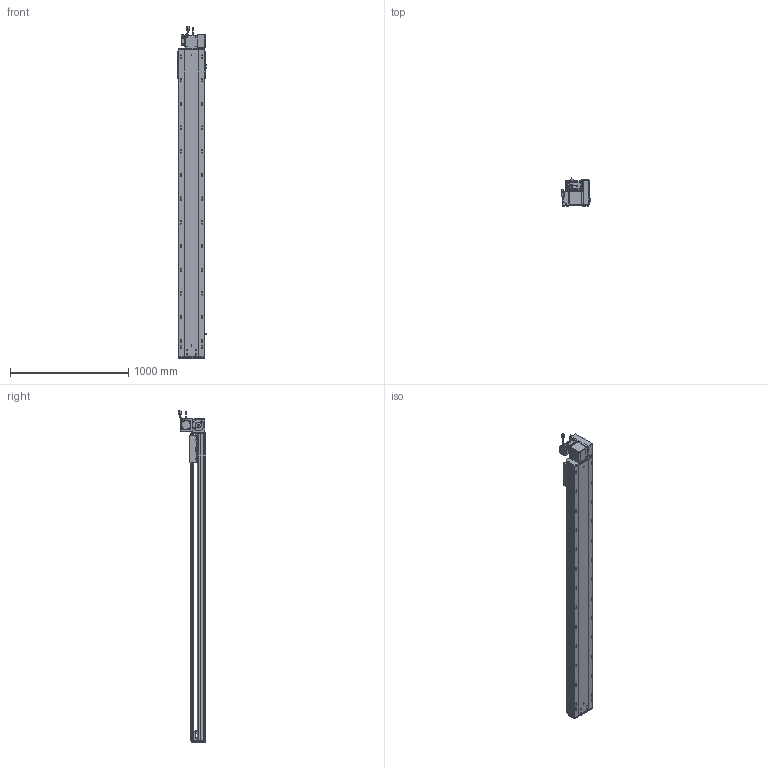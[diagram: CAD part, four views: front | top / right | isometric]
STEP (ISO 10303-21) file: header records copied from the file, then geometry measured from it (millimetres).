
FILE_DESCRIPTION (( 'STEP AP203' ), '1' );
FILE_NAME ('RY220-T-300-UR.SLDASM_2250.step', '2022-07-25T08:45:04', ( '' ), ( '' ), 'SwSTEP 2.0', 'SolidWorks 2016', '' );
FILE_SCHEMA (( 'CONFIG_CONTROL_DESIGN' ));
Length unit declared in the file: millimetre
Products named in the file (14): RY220-T菁釱-300_2250; RY220圉猾敕々湍臏賑輸; RY220翋肮祭謫裔啣; RY220-俋离672覜茼んえ; RY220-T-300-奻裔啣_2250; RY220-T-300-UR.SLDASM_2250; RY220-T-蛌殏萇儂假蚾啣(750W); RY220-T-湍謫欶(鍼踢); 110A-T-肮祭謫釱傷裔; RY220翋肮祭謫釱; RY220-同步轮副支撑座6304×2; 怢湛750W_ECMA-CX0807ES; 覜茼ん672; 滅袉蝶18-15
Assembly tree (18 placements, depth 2):
  RY220-T-300-UR.SLDASM_2250
    RY220-T菁釱-300_2250
    RY220翋肮祭謫釱
    覜茼ん672  x3
    RY220圉猾敕々湍臏賑輸
    RY220-T-300-奻裔啣_2250
    RY220-俋离672覜茼んえ
    滅袉蝶18-15  x3
    RY220翋肮祭謫裔啣  x2
    110A-T-肮祭謫釱傷裔
    怢湛750W_ECMA-CX0807ES
    RY220-T-湍謫欶(鍼踢)
    RY220-T-蛌殏萇儂假蚾啣(750W)
    RY220-同步轮副支撑座6304×2
Bounding box: 238.7 x 231.74 x 2803.27 mm (x, y, z)
Volume: 20346024.5 mm3; surface area: 6218000.6 mm2
Topology: 19 solids, 19 shells, 2890 faces, 7991 edges, 5024 vertices
Faces by surface type: cylinder 1406, plane 1069, cone 333, bspline 56, sphere 16, torus 10
Entity records: 96371 total; most frequent: CARTESIAN_POINT 27289, ORIENTED_EDGE 14298, DIRECTION 13720, EDGE_CURVE 7149, AXIS2_PLACEMENT_3D 4924, VERTEX_POINT 4648, VECTOR 3872, LINE 3872
